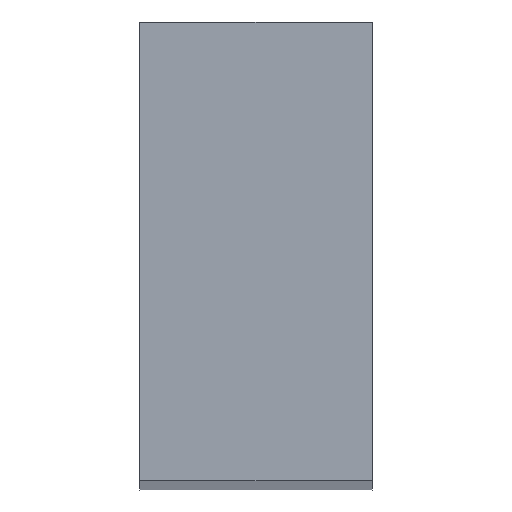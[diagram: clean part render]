
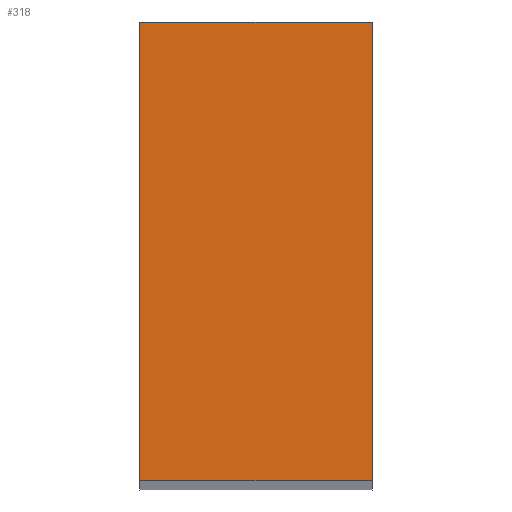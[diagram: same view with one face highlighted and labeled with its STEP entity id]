
A CAD part, top view. The second image highlights one B-rep face of the part: STEP entity #318.
In plain terms, the highlighted planar face has unit normal (0, 0, 1).
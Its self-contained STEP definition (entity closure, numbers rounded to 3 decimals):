
#40 = ORIENTED_EDGE ( 'NONE', *, *, #491, .T. ) ;
#105 = CARTESIAN_POINT ( 'NONE',  ( -5.125, -10.125, 260. ) ) ;
#107 = DIRECTION ( 'NONE',  ( 0., -1., 0. ) ) ;
#134 = CARTESIAN_POINT ( 'NONE',  ( -5.125, -10.125, 260. ) ) ;
#135 = CARTESIAN_POINT ( 'NONE',  ( 5.125, -10.125, 260. ) ) ;
#249 = LINE ( 'NONE', #105, #250 ) ;
#250 = VECTOR ( 'NONE', #107, 1000. ) ;
#269 = CARTESIAN_POINT ( 'NONE',  ( -5.125, -10.125, 260. ) ) ;
#285 = VECTOR ( 'NONE', #413, 1000. ) ;
#318 = ADVANCED_FACE ( 'NONE', ( #943 ), #722, .F. ) ;
#338 = EDGE_LOOP ( 'NONE', ( #1265, #1261, #1262, #40 ) ) ;
#375 = VERTEX_POINT ( 'NONE', #671 ) ;
#413 = DIRECTION ( 'NONE',  ( 0., 1., 0. ) ) ;
#426 = CARTESIAN_POINT ( 'NONE',  ( 5.125, -10.125, 260. ) ) ;
#491 = EDGE_CURVE ( 'NONE', #375, #856, #951, .T. ) ;
#494 = EDGE_CURVE ( 'NONE', #757, #754, #1266, .T. ) ;
#514 = EDGE_CURVE ( 'NONE', #754, #375, #1267, .T. ) ;
#671 = CARTESIAN_POINT ( 'NONE',  ( 5.125, 10.125, 260. ) ) ;
#684 = DIRECTION ( 'NONE',  ( -1., 0., 0. ) ) ;
#696 = CARTESIAN_POINT ( 'NONE',  ( -5.125, 10.125, 260. ) ) ;
#712 = CARTESIAN_POINT ( 'NONE',  ( -5.125, 10.125, 260. ) ) ;
#718 = DIRECTION ( 'NONE',  ( -1., 0., 0. ) ) ;
#719 = DIRECTION ( 'NONE',  ( 0., 0., -1. ) ) ;
#722 = PLANE ( 'NONE',  #1105 ) ;
#754 = VERTEX_POINT ( 'NONE', #135 ) ;
#757 = VERTEX_POINT ( 'NONE', #134 ) ;
#829 = DIRECTION ( 'NONE',  ( 1., 0., 0. ) ) ;
#856 = VERTEX_POINT ( 'NONE', #1211 ) ;
#943 = FACE_OUTER_BOUND ( 'NONE', #338, .T. ) ;
#950 = VECTOR ( 'NONE', #684, 1000. ) ;
#951 = LINE ( 'NONE', #696, #950 ) ;
#1004 = EDGE_CURVE ( 'NONE', #856, #757, #249, .T. ) ;
#1105 = AXIS2_PLACEMENT_3D ( 'NONE', #712, #719, #718 ) ;
#1211 = CARTESIAN_POINT ( 'NONE',  ( -5.125, 10.125, 260. ) ) ;
#1261 = ORIENTED_EDGE ( 'NONE', *, *, #494, .T. ) ;
#1262 = ORIENTED_EDGE ( 'NONE', *, *, #514, .T. ) ;
#1265 = ORIENTED_EDGE ( 'NONE', *, *, #1004, .T. ) ;
#1266 = LINE ( 'NONE', #269, #1269 ) ;
#1267 = LINE ( 'NONE', #426, #285 ) ;
#1269 = VECTOR ( 'NONE', #829, 1000. ) ;
